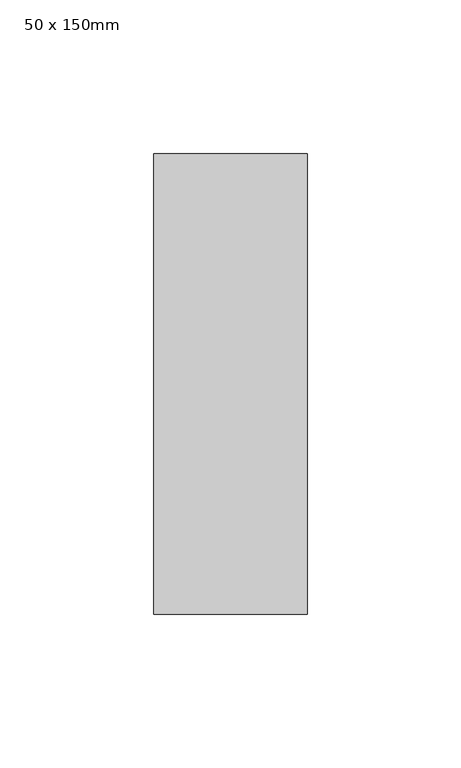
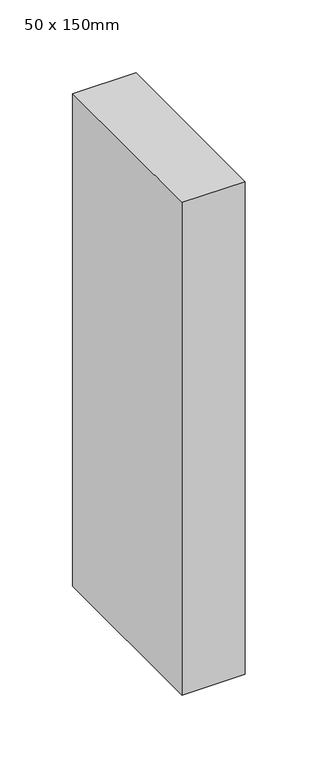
"""IFC4 building model written with IfcOpenShell, lengths in millimetres: member geometry, Прямоугольный импост : 50 x 150mm."""

from ifc_helpers import new_model, si_unit, frame, origin, place, context, project, spatial, polyline, outline, extrude, source, transform, mapped, element, save


def member_50_x_150mm_aba74d9e(model_context):
    return source(origin(), model_context, "Body", "SweptSolid", [
        extrude(outline(polyline([(0.0, 75.0), (0.0, -75.0), (-50.0, -75.0), (-50.0, 75.0), (0.0, 75.0)])), frame((0.0, 0.0, -412.55), z_axis=(0.0, 0.0, 1.0), x_axis=(1.0, 0.0, 0.0)), (0.0, 0.0, 1.0), 412.55),
    ])


if __name__ == "__main__":
    model = new_model("IFC4")
    model_context = context("Model", 3, world=origin())
    ifc_project = project(units=[si_unit("LENGTHUNIT", "METRE", prefix="MILLI")], contexts=[model_context])
    site = spatial("IfcSite", under=ifc_project)
    building = spatial("IfcBuilding", under=site)
    placement = place(None, origin())
    member_50_x_150mm_shape = member_50_x_150mm_aba74d9e(model_context)
    element("IfcMember", 1, ObjectType="Прямоугольный импост : 50 x 150mm", at=placement, inside=building, context=model_context, shape_type="MappedRepresentation", body=[
        mapped(member_50_x_150mm_shape, transform((0.0, 0.0, 0.0), x_axis=(1.0, 0.0, 0.0), y_axis=(0.0, 1.0, 0.0), z_axis=(0.0, 0.0, 1.0))),
    ])
    save(model, "model.ifc")
